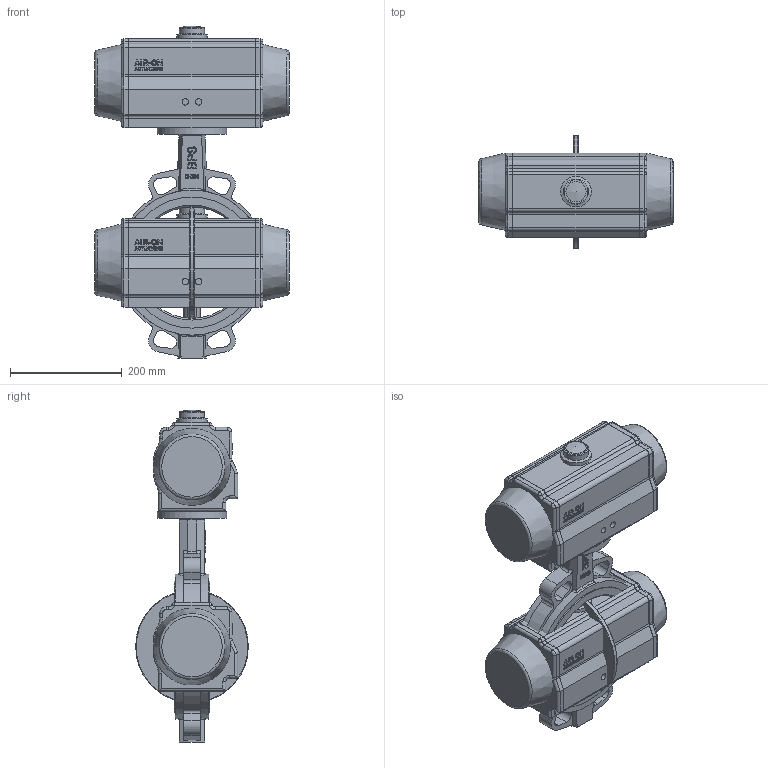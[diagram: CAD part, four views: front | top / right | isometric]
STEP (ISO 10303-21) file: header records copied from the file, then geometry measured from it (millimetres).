
FILE_DESCRIPTION( ( 'Unknown' ), '1' );
FILE_NAME( 'R:/ECCUA/ROOTSI BPS 3D vidinad/Poordklapid Wafer type/Butterfly valve(wafer) with pneumatic actuator BPS/STEP formaat/BPS 2303200P butterfly valve DN200.stp', 'Unknown', ( 'Unknown' ), ( 'Unknown' ), 'PSStep 10.1', 'Unknown', ' ' );
FILE_SCHEMA( ( 'AUTOMOTIVE_DESIGN { 1 0 10303 214 1 1 1 1 }' ) );
Length unit declared in the file: millimetre
Products named in the file (5): Assem1; Butterfly valve wafer type DN200 BPS; BPS 8300125DA-SR pneumatic actuator
Bounding box: 348 x 202 x 595 mm (x, y, z)
Volume: 17870861 mm3; surface area: 1193476 mm2
Topology: 8 solids, 8 shells, 1020 faces, 2644 edges, 1726 vertices
Faces by surface type: plane 324, extrusion 284, cylinder 282, torus 50, bspline 44, cone 34, sphere 2
Full cylindrical faces by diameter (mm): 6.647 x8, 8.376 x8, 10.106 x8, 11 x8, 11.445 x4, 36 x2, 45 x2, 55 x2, 125 x2, 200 x2, 235 x4, 260 x4
Entity records: 24296 total; most frequent: CARTESIAN_POINT 8341, ORIENTED_EDGE 2462, DIRECTION 2142, EDGE_CURVE 1231, VERTEX_POINT 841, VECTOR 774, AXIS2_PLACEMENT_3D 684, LINE 632
